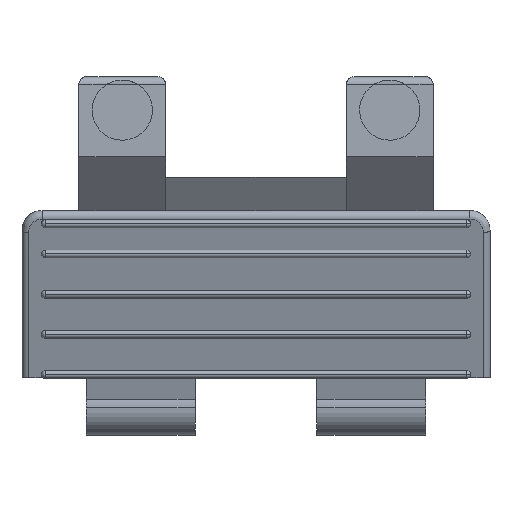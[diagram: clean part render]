
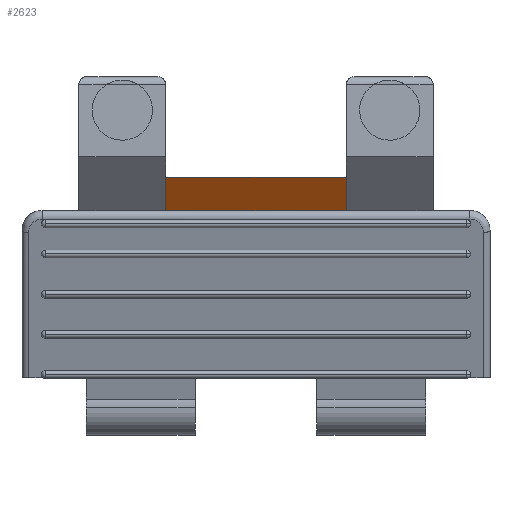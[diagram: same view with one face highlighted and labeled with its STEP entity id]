
A CAD part, top view. The second image highlights one B-rep face of the part: STEP entity #2623.
In plain terms, the highlighted planar face has unit normal (0, -0.579, 0.815).
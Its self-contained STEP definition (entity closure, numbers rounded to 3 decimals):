
#1752 = VERTEX_POINT('',#1753);
#1753 = CARTESIAN_POINT('',(-178.75,-78.5,11.05));
#1759 = EDGE_CURVE('',#1760,#1752,#1762,.T.);
#1760 = VERTEX_POINT('',#1761);
#1761 = CARTESIAN_POINT('',(-205.75,-78.5,11.05));
#1762 = LINE('',#1763,#1764);
#1763 = CARTESIAN_POINT('',(-218.75,-78.5,11.05));
#1764 = VECTOR('',#1765,1.);
#1765 = DIRECTION('',(1.,0.,0.));
#2446 = VERTEX_POINT('',#2447);
#2447 = CARTESIAN_POINT('',(-205.75,-83.5,7.5));
#2469 = EDGE_CURVE('',#2446,#2470,#2472,.T.);
#2470 = VERTEX_POINT('',#2471);
#2471 = CARTESIAN_POINT('',(-178.75,-83.5,7.5));
#2472 = LINE('',#2473,#2474);
#2473 = CARTESIAN_POINT('',(-218.75,-83.5,7.5));
#2474 = VECTOR('',#2475,1.);
#2475 = DIRECTION('',(1.,0.,0.));
#2611 = EDGE_CURVE('',#2446,#1760,#2612,.T.);
#2612 = LINE('',#2613,#2614);
#2613 = CARTESIAN_POINT('',(-205.75,-77.029,12.094));
#2614 = VECTOR('',#2615,1.);
#2615 = DIRECTION('',(-0.,0.815,0.579));
#2623 = ADVANCED_FACE('',(#2624),#2635,.F.);
#2624 = FACE_BOUND('',#2625,.F.);
#2625 = EDGE_LOOP('',(#2626,#2627,#2628,#2634));
#2626 = ORIENTED_EDGE('',*,*,#2611,.T.);
#2627 = ORIENTED_EDGE('',*,*,#1759,.T.);
#2628 = ORIENTED_EDGE('',*,*,#2629,.F.);
#2629 = EDGE_CURVE('',#2470,#1752,#2630,.T.);
#2630 = LINE('',#2631,#2632);
#2631 = CARTESIAN_POINT('',(-178.75,-77.029,12.094));
#2632 = VECTOR('',#2633,1.);
#2633 = DIRECTION('',(-0.,0.815,0.579));
#2634 = ORIENTED_EDGE('',*,*,#2469,.F.);
#2635 = PLANE('',#2636);
#2636 = AXIS2_PLACEMENT_3D('',#2637,#2638,#2639);
#2637 = CARTESIAN_POINT('',(-218.75,-78.5,11.05));
#2638 = DIRECTION('',(0.,0.579,-0.815));
#2639 = DIRECTION('',(0.,-0.815,-0.579));
